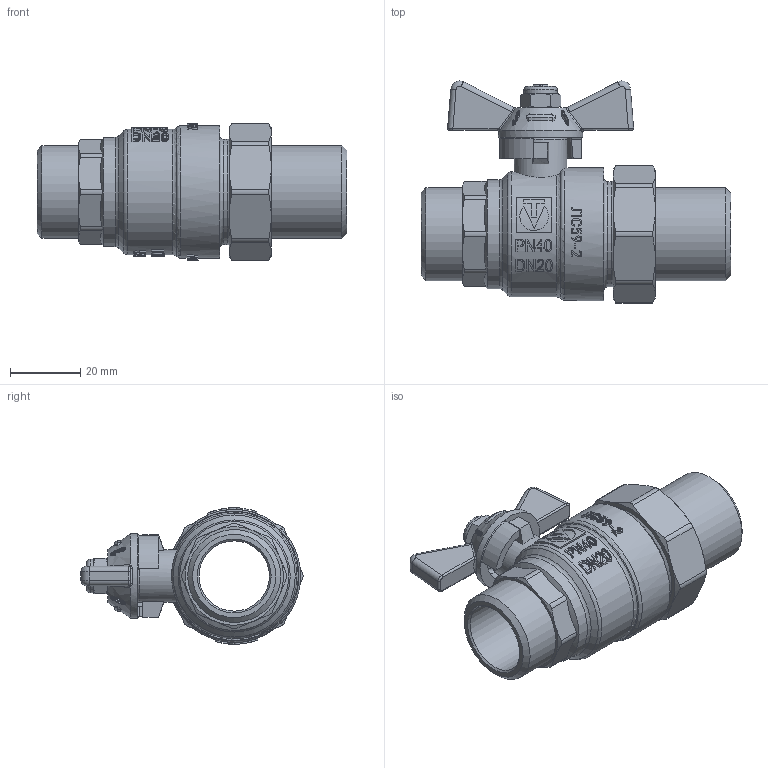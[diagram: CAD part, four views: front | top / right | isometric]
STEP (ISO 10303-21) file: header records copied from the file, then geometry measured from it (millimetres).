
FILE_DESCRIPTION(('STEP AP203'), '1');
FILE_NAME('VT.226S.N.05', '', ('UNSPECIFIED'), ('UNSPECIFIED'), 'C3D Converter', 'C3D Toolkit', '');
FILE_SCHEMA(('CONFIG_CONTROL_DESIGN'));
Length unit declared in the file: millimetre
Products named in the file (1): ВР.491811.013.000 СБ
Bounding box: 88.12 x 63.17 x 39.18 mm (x, y, z)
Volume: 50482 mm3; surface area: 20995.1 mm2
Topology: 1 solids, 1 shells, 1862 faces, 5288 edges, 3487 vertices
Faces by surface type: plane 1462, extrusion 179, cylinder 113, cone 62, bspline 28, torus 18
Full cylindrical faces by diameter (mm): 6 x1, 8 x1, 9.5 x1, 10.5 x1, 12 x1, 15 x1, 20 x1, 24 x1, 26.441 x2, 27 x1, 29.9 x1, 31 x1, 35.6 x1, 37.8 x1
Entity records: 68125 total; most frequent: CARTESIAN_POINT 27594, ORIENTED_EDGE 10430, DIRECTION 6272, EDGE_CURVE 5215, VERTEX_POINT 3471, VECTOR 2188, AXIS2_PLACEMENT_3D 2042, LINE 2009
